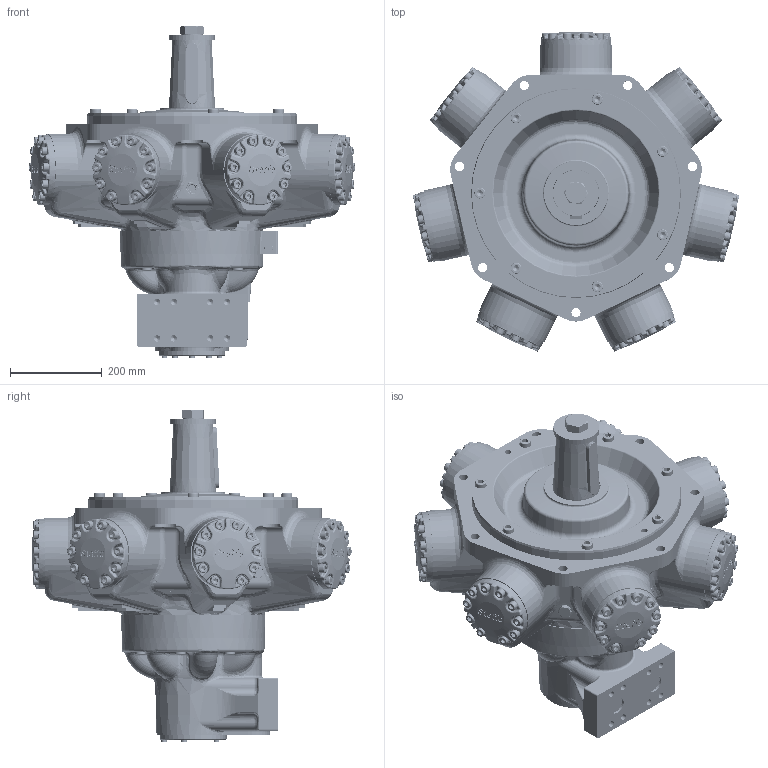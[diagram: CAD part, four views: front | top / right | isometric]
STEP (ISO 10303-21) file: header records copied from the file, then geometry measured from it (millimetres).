
FILE_DESCRIPTION(/* description */ (''),/* implementation_level */ '2;1');
FILE_NAME(/* name */ 'HMC270_T_SFM4_CS.stp',/* time_stamp */ '2025-06-16T15:22:51+01:00',/* author */ ('ccallanga'),/* organization */ (''),/* preprocessor_version */ 'ST-DEVELOPER v20',/* originating_system */ 'Autodesk Inventor 2024',/* authorisation */ '');
FILE_SCHEMA (('AUTOMOTIVE_DESIGN { 1 0 10303 214 3 1 1 }'));
Products named in the file (1): 017752 HMC270 Web Assembly_Simplify_1
Bounding box: 711.04 x 695.71 x 723.43 mm (x, y, z)
Volume: 73722111.6 mm3; surface area: 1721166.5 mm2
Topology: 1 solids, 1 shells, 6858 faces, 16767 edges, 9996 vertices
Faces by surface type: bspline 2703, plane 1988, cylinder 1299, torus 502, cone 190, sphere 176
Full cylindrical faces by diameter (mm): 2.2 x4, 4 x1, 4.134 x4, 5.5 x4, 6.05 x2, 6.5 x1, 7 x1, 9.4 x3, 11.913 x5, 12 x3, 12.7 x5, 13.835 x9, 14.351 x2, 16.51 x1, 19 x1, 19.05 x70, 20 x7, 20.637 x70, 23.825 x14, 25 x1, 25.4 x14, 26.92 x2, 28.75 x1, 38 x2, 38.1 x3, 46 x1, 100 x1, 101.575 x1, 106.68 x1, 139.7 x1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
Entity records: 301861 total; most frequent: CARTESIAN_POINT 154245, ORIENTED_EDGE 32900, DIRECTION 22940, EDGE_CURVE 16450, VERTEX_POINT 9996, AXIS2_PLACEMENT_3D 8599, EDGE_LOOP 7276, STYLED_ITEM 6859
